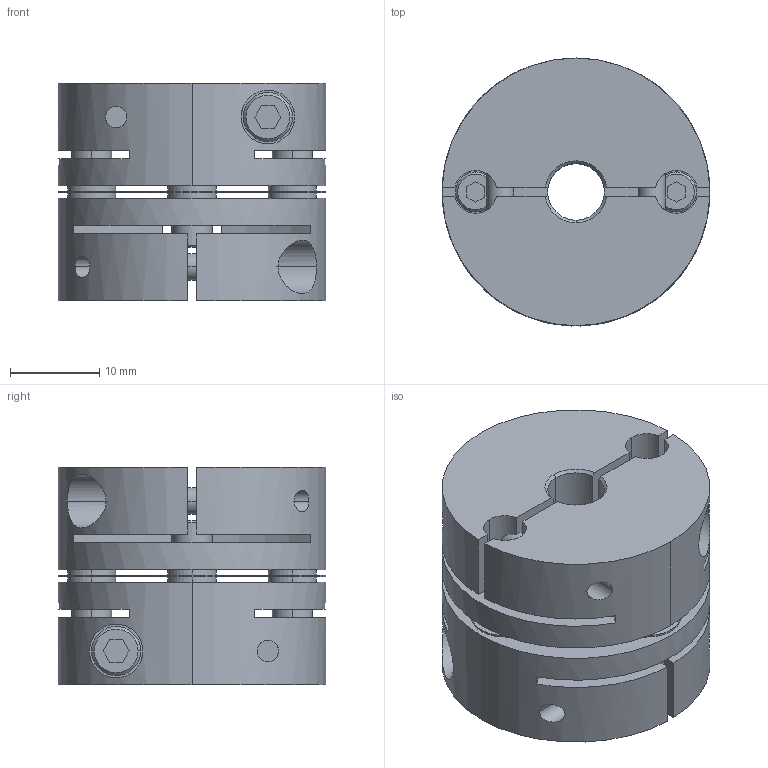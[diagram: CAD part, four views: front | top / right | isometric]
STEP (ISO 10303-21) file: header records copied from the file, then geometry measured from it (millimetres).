
FILE_DESCRIPTION((''),'2;1');
FILE_NAME('LAS-30C-6.35×8.stp','2015-10-14T15:15:01',(''),(''),'AutoCAD STEP 2000i','AutoCAD 2000i',', , ');
FILE_SCHEMA(('CONFIG_CONTROL_DESIGN'));
Length unit declared in the file: millimetre
Products named in the file (5): LAS-30C-6×6; 忣兜1; LA-3002-D06-1; LA-3002-D06; LAS30-ITA
Assembly tree (4 placements, depth 2):
  LAS-30C-6×6
    忣兜1
    LA-3002-D06-1
    LA-3002-D06
    LAS30-ITA
Bounding box: 30 x 30 x 24.4 mm (x, y, z)
Volume: 13500.4 mm3; surface area: 9229.3 mm2
Topology: 1 solids, 1 shells, 236 faces, 624 edges, 408 vertices
Faces by surface type: plane 112, cylinder 96, cone 28
Entity records: 8139 total; most frequent: CARTESIAN_POINT 1945, DIRECTION 1302, ORIENTED_EDGE 1248, EDGE_CURVE 624, AXIS2_PLACEMENT_3D 477, VERTEX_POINT 408, VECTOR 348, LINE 348
